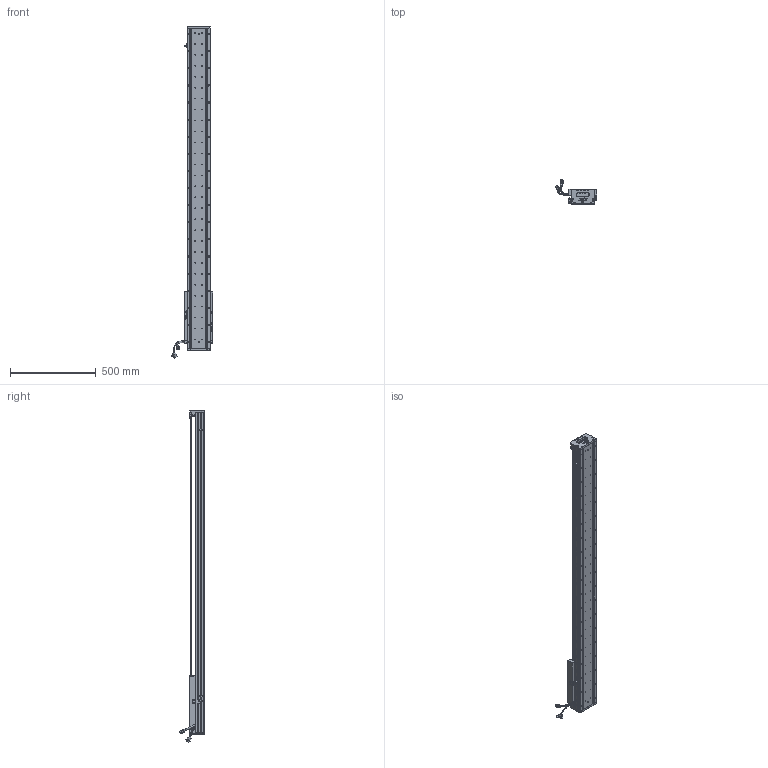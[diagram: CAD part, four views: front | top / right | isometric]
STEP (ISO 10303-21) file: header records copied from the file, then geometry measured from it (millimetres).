
FILE_DESCRIPTION (( 'STEP AP203' ), '1' );
FILE_NAME ('Z4-RY140D-1-L500-B-K.SLDASM_1500.step', '2021-05-17T08:16:44', ( '盈信电脑' ), ( '东莞市道滘镇水果街19号' ), 'SwSTEP 2.0', 'SolidWorks 2016', '' );
FILE_SCHEMA (( 'CONFIG_CONTROL_DESIGN' ));
Length unit declared in the file: millimetre
Products named in the file (36): 080黍杅芛假蚾釱21遴; Z-RY140感应器672光电感应片; 覜茼ん672; HARNESS-Part-1; SCREW-M1.6; Z4-RY140D-1-L500-B-K.SLDASM_1500; SCREW-M1.6-3; COVER-Part-1; SCALE-Part-1; 榋妏寠巭燃_暯_M2_2; SHIELDPLATE; Z-140詩湍傷裔啣; Z4-RY140-L500詩湍100mm遵_1500; SCREW-M1.6-1; SCREW-M1.6-2; HARNESS; LABEL-Part-1; 140雄赽晤鎢ん堤盄; COVER; SEAL; SEAL-Part-1; PBU_SHEET; SCALE; HOLDER0; LABEL; SCALE-Part-2; 詩湍狟揤裔; 140-Z-臏賑輸盄裔(21遴); PSLH080_PSLF2; 詩湍奻揤裔; HARNESS-Part-2; Z4-RY140-L500直线电机模组底座_1500; SCREW-M1.7; Z4-RY140圉猾敕臏賑輸(21遴); 140蚥薯蝶輸; SCREW-M1.7-1
Assembly tree (41 placements, depth 4):
  Z4-RY140D-1-L500-B-K.SLDASM_1500
    Z4-RY140-L500直线电机模组底座_1500
    Z-RY140感应器672光电感应片
    Z4-RY140圉猾敕臏賑輸(21遴)
    覜茼ん672  x3
    Z4-RY140-L500詩湍100mm遵_1500
    PSLH080_PSLF2
      SCALE
        SCALE-Part-1
        SCALE-Part-2
      HARNESS
        HARNESS-Part-1
        HARNESS-Part-2
      LABEL
        LABEL-Part-1
      COVER
        COVER-Part-1
      SEAL
        SEAL-Part-1
      榋妏寠巭燃_暯_M2_2
      SHIELDPLATE
      SCREW-M1.7
      SCREW-M1.7-1
      PBU_SHEET
      SCREW-M1.6
      SCREW-M1.6-1
      SCREW-M1.6-2
      SCREW-M1.6-3
      HOLDER0
    080黍杅芛假蚾釱21遴
    140-Z-臏賑輸盄裔(21遴)
    Z-140詩湍傷裔啣  x2
    詩湍狟揤裔  x2
    詩湍奻揤裔  x2
    140蚥薯蝶輸  x2
    140雄赽晤鎢ん堤盄
Bounding box: 239.83 x 143.88 x 1940.87 mm (x, y, z)
Volume: 6689726.9 mm3; surface area: 1717620.6 mm2
Topology: 36 solids, 36 shells, 3628 faces, 9758 edges, 6179 vertices
Faces by surface type: cylinder 1876, plane 1272, cone 358, torus 69, bspline 53
Entity records: 111990 total; most frequent: CARTESIAN_POINT 30485, ORIENTED_EDGE 16524, DIRECTION 15666, EDGE_CURVE 8262, AXIS2_PLACEMENT_3D 5808, VERTEX_POINT 5347, VECTOR 4050, LINE 4050
